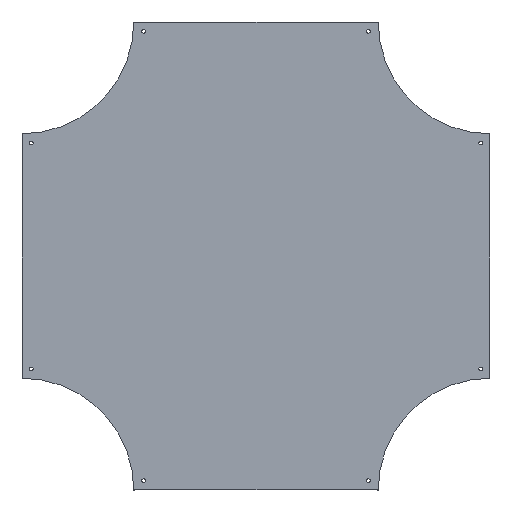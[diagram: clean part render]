
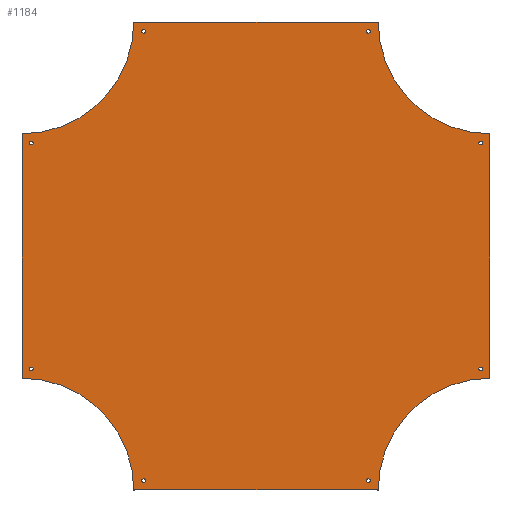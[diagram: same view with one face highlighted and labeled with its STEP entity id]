
A CAD part, top view. The second image highlights one B-rep face of the part: STEP entity #1184.
In plain terms, the highlighted planar face has unit normal (0, 0, 1).
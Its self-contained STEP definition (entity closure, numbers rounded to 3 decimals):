
#86=FACE_BOUND('',#177,.T.);
#87=FACE_BOUND('',#178,.T.);
#88=FACE_BOUND('',#179,.T.);
#89=FACE_BOUND('',#180,.T.);
#90=FACE_BOUND('',#181,.T.);
#91=FACE_BOUND('',#182,.T.);
#92=FACE_BOUND('',#183,.T.);
#93=FACE_BOUND('',#184,.T.);
#102=FACE_OUTER_BOUND('',#176,.T.);
#176=EDGE_LOOP('',(#810,#811,#812,#813,#814,#815,#816,#817));
#177=EDGE_LOOP('',(#818,#819));
#178=EDGE_LOOP('',(#820,#821));
#179=EDGE_LOOP('',(#822,#823));
#180=EDGE_LOOP('',(#824,#825));
#181=EDGE_LOOP('',(#826,#827));
#182=EDGE_LOOP('',(#828,#829));
#183=EDGE_LOOP('',(#830,#831));
#184=EDGE_LOOP('',(#832,#833));
#266=CIRCLE('',#1270,298.5);
#267=CIRCLE('',#1271,298.5);
#268=CIRCLE('',#1272,298.5);
#269=CIRCLE('',#1273,298.5);
#270=CIRCLE('',#1274,5.);
#271=CIRCLE('',#1275,5.);
#272=CIRCLE('',#1276,5.);
#273=CIRCLE('',#1277,5.);
#274=CIRCLE('',#1278,5.);
#275=CIRCLE('',#1279,5.);
#276=CIRCLE('',#1280,5.);
#277=CIRCLE('',#1281,5.);
#278=CIRCLE('',#1282,5.);
#279=CIRCLE('',#1283,5.);
#280=CIRCLE('',#1284,5.);
#281=CIRCLE('',#1285,5.);
#282=CIRCLE('',#1286,5.);
#283=CIRCLE('',#1287,5.);
#284=CIRCLE('',#1288,5.);
#285=CIRCLE('',#1289,5.);
#338=LINE('',#1839,#434);
#339=LINE('',#1843,#435);
#340=LINE('',#1847,#436);
#341=LINE('',#1851,#437);
#434=VECTOR('',#1430,304.8);
#435=VECTOR('',#1433,304.8);
#436=VECTOR('',#1436,304.8);
#437=VECTOR('',#1439,304.8);
#530=VERTEX_POINT('',#1837);
#531=VERTEX_POINT('',#1838);
#532=VERTEX_POINT('',#1840);
#533=VERTEX_POINT('',#1842);
#534=VERTEX_POINT('',#1844);
#535=VERTEX_POINT('',#1846);
#536=VERTEX_POINT('',#1848);
#537=VERTEX_POINT('',#1850);
#538=VERTEX_POINT('',#1853);
#539=VERTEX_POINT('',#1854);
#540=VERTEX_POINT('',#1857);
#541=VERTEX_POINT('',#1858);
#542=VERTEX_POINT('',#1861);
#543=VERTEX_POINT('',#1862);
#544=VERTEX_POINT('',#1865);
#545=VERTEX_POINT('',#1866);
#546=VERTEX_POINT('',#1869);
#547=VERTEX_POINT('',#1870);
#548=VERTEX_POINT('',#1873);
#549=VERTEX_POINT('',#1874);
#550=VERTEX_POINT('',#1877);
#551=VERTEX_POINT('',#1878);
#552=VERTEX_POINT('',#1881);
#553=VERTEX_POINT('',#1882);
#642=EDGE_CURVE('',#530,#531,#338,.T.);
#643=EDGE_CURVE('',#531,#532,#266,.T.);
#644=EDGE_CURVE('',#532,#533,#339,.T.);
#645=EDGE_CURVE('',#533,#534,#267,.T.);
#646=EDGE_CURVE('',#534,#535,#340,.T.);
#647=EDGE_CURVE('',#535,#536,#268,.T.);
#648=EDGE_CURVE('',#536,#537,#341,.T.);
#649=EDGE_CURVE('',#537,#530,#269,.T.);
#650=EDGE_CURVE('',#538,#539,#270,.T.);
#651=EDGE_CURVE('',#539,#538,#271,.T.);
#652=EDGE_CURVE('',#540,#541,#272,.T.);
#653=EDGE_CURVE('',#541,#540,#273,.T.);
#654=EDGE_CURVE('',#542,#543,#274,.T.);
#655=EDGE_CURVE('',#543,#542,#275,.T.);
#656=EDGE_CURVE('',#544,#545,#276,.T.);
#657=EDGE_CURVE('',#545,#544,#277,.T.);
#658=EDGE_CURVE('',#546,#547,#278,.T.);
#659=EDGE_CURVE('',#547,#546,#279,.T.);
#660=EDGE_CURVE('',#548,#549,#280,.T.);
#661=EDGE_CURVE('',#549,#548,#281,.T.);
#662=EDGE_CURVE('',#550,#551,#282,.T.);
#663=EDGE_CURVE('',#551,#550,#283,.T.);
#664=EDGE_CURVE('',#552,#553,#284,.T.);
#665=EDGE_CURVE('',#553,#552,#285,.T.);
#810=ORIENTED_EDGE('',*,*,#642,.T.);
#811=ORIENTED_EDGE('',*,*,#643,.T.);
#812=ORIENTED_EDGE('',*,*,#644,.T.);
#813=ORIENTED_EDGE('',*,*,#645,.T.);
#814=ORIENTED_EDGE('',*,*,#646,.T.);
#815=ORIENTED_EDGE('',*,*,#647,.T.);
#816=ORIENTED_EDGE('',*,*,#648,.T.);
#817=ORIENTED_EDGE('',*,*,#649,.T.);
#818=ORIENTED_EDGE('',*,*,#650,.T.);
#819=ORIENTED_EDGE('',*,*,#651,.T.);
#820=ORIENTED_EDGE('',*,*,#652,.T.);
#821=ORIENTED_EDGE('',*,*,#653,.T.);
#822=ORIENTED_EDGE('',*,*,#654,.T.);
#823=ORIENTED_EDGE('',*,*,#655,.T.);
#824=ORIENTED_EDGE('',*,*,#656,.T.);
#825=ORIENTED_EDGE('',*,*,#657,.T.);
#826=ORIENTED_EDGE('',*,*,#658,.T.);
#827=ORIENTED_EDGE('',*,*,#659,.T.);
#828=ORIENTED_EDGE('',*,*,#660,.T.);
#829=ORIENTED_EDGE('',*,*,#661,.T.);
#830=ORIENTED_EDGE('',*,*,#662,.T.);
#831=ORIENTED_EDGE('',*,*,#663,.T.);
#832=ORIENTED_EDGE('',*,*,#664,.T.);
#833=ORIENTED_EDGE('',*,*,#665,.T.);
#1146=PLANE('',#1269);
#1184=ADVANCED_FACE('',(#102,#86,#87,#88,#89,#90,#91,#92,#93),#1146,.T.);
#1269=AXIS2_PLACEMENT_3D('',#1836,#1428,#1429);
#1270=AXIS2_PLACEMENT_3D('',#1841,#1431,#1432);
#1271=AXIS2_PLACEMENT_3D('',#1845,#1434,#1435);
#1272=AXIS2_PLACEMENT_3D('',#1849,#1437,#1438);
#1273=AXIS2_PLACEMENT_3D('',#1852,#1440,#1441);
#1274=AXIS2_PLACEMENT_3D('',#1855,#1442,#1443);
#1275=AXIS2_PLACEMENT_3D('',#1856,#1444,#1445);
#1276=AXIS2_PLACEMENT_3D('',#1859,#1446,#1447);
#1277=AXIS2_PLACEMENT_3D('',#1860,#1448,#1449);
#1278=AXIS2_PLACEMENT_3D('',#1863,#1450,#1451);
#1279=AXIS2_PLACEMENT_3D('',#1864,#1452,#1453);
#1280=AXIS2_PLACEMENT_3D('',#1867,#1454,#1455);
#1281=AXIS2_PLACEMENT_3D('',#1868,#1456,#1457);
#1282=AXIS2_PLACEMENT_3D('',#1871,#1458,#1459);
#1283=AXIS2_PLACEMENT_3D('',#1872,#1460,#1461);
#1284=AXIS2_PLACEMENT_3D('',#1875,#1462,#1463);
#1285=AXIS2_PLACEMENT_3D('',#1876,#1464,#1465);
#1286=AXIS2_PLACEMENT_3D('',#1879,#1466,#1467);
#1287=AXIS2_PLACEMENT_3D('',#1880,#1468,#1469);
#1288=AXIS2_PLACEMENT_3D('',#1883,#1470,#1471);
#1289=AXIS2_PLACEMENT_3D('',#1884,#1472,#1473);
#1428=DIRECTION('center_axis',(0.,0.,1.));
#1429=DIRECTION('ref_axis',(0.,-1.,0.));
#1430=DIRECTION('',(0.,1.,0.));
#1431=DIRECTION('center_axis',(0.,0.,-1.));
#1432=DIRECTION('ref_axis',(1.,0.,0.));
#1433=DIRECTION('',(-1.,0.,0.));
#1434=DIRECTION('center_axis',(0.,0.,-1.));
#1435=DIRECTION('ref_axis',(1.,0.,0.));
#1436=DIRECTION('',(0.,-1.,0.));
#1437=DIRECTION('center_axis',(0.,0.,-1.));
#1438=DIRECTION('ref_axis',(1.,0.,0.));
#1439=DIRECTION('',(1.,0.,0.));
#1440=DIRECTION('center_axis',(0.,0.,-1.));
#1441=DIRECTION('ref_axis',(1.,0.,0.));
#1442=DIRECTION('center_axis',(0.,0.,-1.));
#1443=DIRECTION('ref_axis',(1.,0.,0.));
#1444=DIRECTION('center_axis',(0.,0.,-1.));
#1445=DIRECTION('ref_axis',(1.,0.,0.));
#1446=DIRECTION('center_axis',(0.,0.,-1.));
#1447=DIRECTION('ref_axis',(1.,0.,0.));
#1448=DIRECTION('center_axis',(0.,0.,-1.));
#1449=DIRECTION('ref_axis',(1.,0.,0.));
#1450=DIRECTION('center_axis',(0.,0.,-1.));
#1451=DIRECTION('ref_axis',(1.,0.,0.));
#1452=DIRECTION('center_axis',(0.,0.,-1.));
#1453=DIRECTION('ref_axis',(1.,0.,0.));
#1454=DIRECTION('center_axis',(0.,0.,-1.));
#1455=DIRECTION('ref_axis',(1.,0.,0.));
#1456=DIRECTION('center_axis',(0.,0.,-1.));
#1457=DIRECTION('ref_axis',(1.,0.,0.));
#1458=DIRECTION('center_axis',(0.,0.,-1.));
#1459=DIRECTION('ref_axis',(1.,0.,0.));
#1460=DIRECTION('center_axis',(0.,0.,-1.));
#1461=DIRECTION('ref_axis',(1.,0.,0.));
#1462=DIRECTION('center_axis',(0.,0.,-1.));
#1463=DIRECTION('ref_axis',(1.,0.,0.));
#1464=DIRECTION('center_axis',(0.,0.,-1.));
#1465=DIRECTION('ref_axis',(1.,0.,0.));
#1466=DIRECTION('center_axis',(0.,0.,-1.));
#1467=DIRECTION('ref_axis',(1.,0.,0.));
#1468=DIRECTION('center_axis',(0.,0.,-1.));
#1469=DIRECTION('ref_axis',(1.,0.,0.));
#1470=DIRECTION('center_axis',(0.,0.,-1.));
#1471=DIRECTION('ref_axis',(1.,0.,0.));
#1472=DIRECTION('center_axis',(0.,0.,-1.));
#1473=DIRECTION('ref_axis',(1.,0.,0.));
#1836=CARTESIAN_POINT('Origin',(-326.5,-625.,1.5));
#1837=CARTESIAN_POINT('',(625.,-326.5,1.5));
#1838=CARTESIAN_POINT('',(625.,326.5,1.5));
#1839=CARTESIAN_POINT('',(625.,-326.5,1.5));
#1840=CARTESIAN_POINT('',(326.5,625.,1.5));
#1841=CARTESIAN_POINT('Origin',(625.,625.,1.5));
#1842=CARTESIAN_POINT('',(-326.5,625.,1.5));
#1843=CARTESIAN_POINT('',(326.5,625.,1.5));
#1844=CARTESIAN_POINT('',(-625.,326.5,1.5));
#1845=CARTESIAN_POINT('Origin',(-625.,625.,1.5));
#1846=CARTESIAN_POINT('',(-625.,-326.5,1.5));
#1847=CARTESIAN_POINT('',(-625.,326.5,1.5));
#1848=CARTESIAN_POINT('',(-326.5,-625.,1.5));
#1849=CARTESIAN_POINT('Origin',(-625.,-625.,1.5));
#1850=CARTESIAN_POINT('',(326.5,-625.,1.5));
#1851=CARTESIAN_POINT('',(-326.5,-625.,1.5));
#1852=CARTESIAN_POINT('Origin',(625.,-625.,1.5));
#1853=CARTESIAN_POINT('',(-595.,301.5,1.5));
#1854=CARTESIAN_POINT('',(-605.,301.5,1.5));
#1855=CARTESIAN_POINT('Origin',(-600.,301.5,1.5));
#1856=CARTESIAN_POINT('Origin',(-600.,301.5,1.5));
#1857=CARTESIAN_POINT('',(-595.,-301.5,1.5));
#1858=CARTESIAN_POINT('',(-605.,-301.5,1.5));
#1859=CARTESIAN_POINT('Origin',(-600.,-301.5,1.5));
#1860=CARTESIAN_POINT('Origin',(-600.,-301.5,1.5));
#1861=CARTESIAN_POINT('',(305.,600.,1.5));
#1862=CARTESIAN_POINT('',(295.,600.,1.5));
#1863=CARTESIAN_POINT('Origin',(300.,600.,1.5));
#1864=CARTESIAN_POINT('Origin',(300.,600.,1.5));
#1865=CARTESIAN_POINT('',(-295.,600.,1.5));
#1866=CARTESIAN_POINT('',(-305.,600.,1.5));
#1867=CARTESIAN_POINT('Origin',(-300.,600.,1.5));
#1868=CARTESIAN_POINT('Origin',(-300.,600.,1.5));
#1869=CARTESIAN_POINT('',(605.,301.5,1.5));
#1870=CARTESIAN_POINT('',(595.,301.5,1.5));
#1871=CARTESIAN_POINT('Origin',(600.,301.5,1.5));
#1872=CARTESIAN_POINT('Origin',(600.,301.5,1.5));
#1873=CARTESIAN_POINT('',(605.,-301.5,1.5));
#1874=CARTESIAN_POINT('',(595.,-301.5,1.5));
#1875=CARTESIAN_POINT('Origin',(600.,-301.5,1.5));
#1876=CARTESIAN_POINT('Origin',(600.,-301.5,1.5));
#1877=CARTESIAN_POINT('',(-295.,-600.,1.5));
#1878=CARTESIAN_POINT('',(-305.,-600.,1.5));
#1879=CARTESIAN_POINT('Origin',(-300.,-600.,1.5));
#1880=CARTESIAN_POINT('Origin',(-300.,-600.,1.5));
#1881=CARTESIAN_POINT('',(305.,-600.,1.5));
#1882=CARTESIAN_POINT('',(295.,-600.,1.5));
#1883=CARTESIAN_POINT('Origin',(300.,-600.,1.5));
#1884=CARTESIAN_POINT('Origin',(300.,-600.,1.5));
